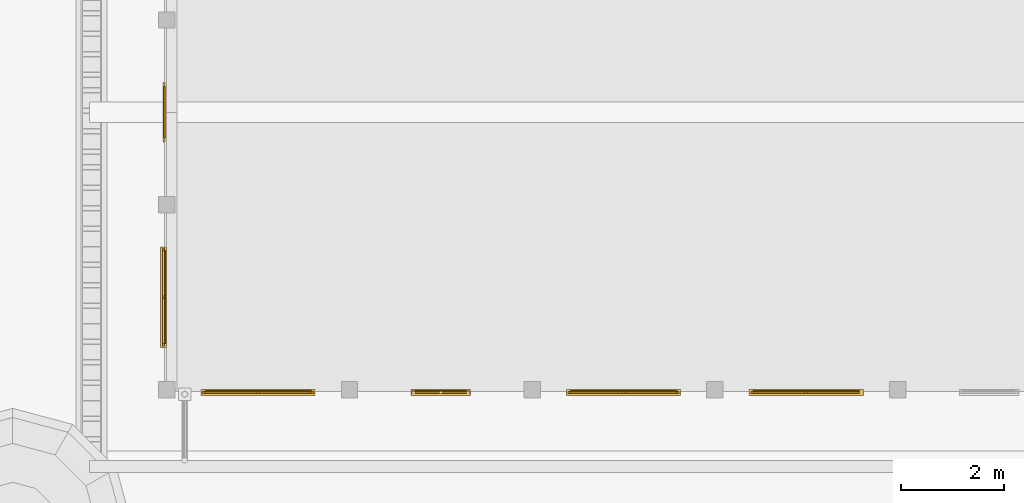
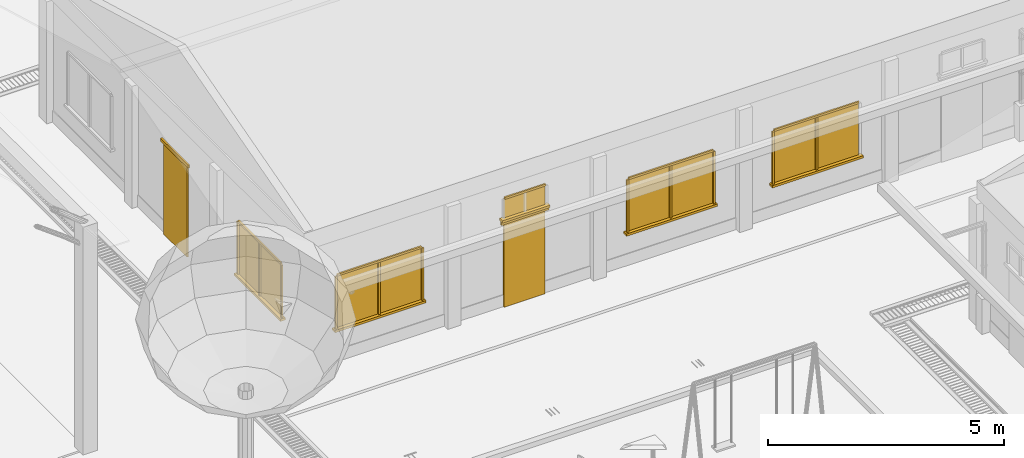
# One storey, part 55 of 166: 26 windows, 4 doors.
"""IFC2X3 building model written with IfcOpenShell, lengths in metres."""

from ifc_helpers import new_model, si_unit, origin, origin_with_axes, place, context, subcontext, project, spatial, faceted_brep, element, save


model = new_model("IFC2X3")

# Units and contexts
model_context = context("Model", 3, precision=1e-05, world=origin_with_axes())
body_context = subcontext(model_context, "Body", "Model", "MODEL_VIEW")
ifc_project = project(units=[si_unit("LENGTHUNIT", "METRE"), si_unit("AREAUNIT", "SQUARE_METRE"), si_unit("VOLUMEUNIT", "CUBIC_METRE"), si_unit("PLANEANGLEUNIT", "RADIAN")], contexts=[model_context])

# Site, building, storey
site_placement = place(None, origin_with_axes())
site = spatial("IfcSite", under=ifc_project, at=site_placement, Name="Predio Los Mangos - Morales, San Martín", CompositionType="ELEMENT")
building_placement = place(site_placement, origin())
building = spatial("IfcBuilding", under=site, at=building_placement, Name="Hogar de Refugio Temporal", CompositionType="ELEMENT")
storey_placement = place(building_placement, origin())
storey = spatial("IfcBuildingStorey", under=building, at=storey_placement, Name="NIVEL 1 (NPT +0.00)", CompositionType="ELEMENT", Elevation=0.0)

# Windows
window_1_placement = place(storey_placement, origin())
element("IfcWindow", 1, at=window_1_placement, inside=storey, Name="E-06_v0_vid", ObjectType="Ventana", context=body_context, shape_type="Brep", body=[
    faceted_brep([(32.7476, 92.66, 1.05), (32.7476, 92.68, 1.05), (34.8124, 92.68, 1.05), (34.8124, 92.66, 1.05), (32.7476, 92.66, 2.4), (34.8124, 92.66, 2.4), (34.8124, 92.68, 2.4), (32.7476, 92.68, 2.4)], [[[0, 1, 2, 3]], [[4, 5, 6, 7]], [[0, 3, 5, 4]], [[3, 2, 6, 5]], [[2, 1, 7, 6]], [[1, 0, 4, 7]]]),
])
window_2_placement = place(storey_placement, origin())
element("IfcWindow", 2, at=window_2_placement, inside=storey, Name="E-06_v0_m", ObjectType="Ventana", context=body_context, shape_type="Brep", body=[
    faceted_brep([(32.6976, 92.62, 1.05), (32.6976, 92.66, 1.05), (32.7476, 92.66, 1.05), (32.7476, 92.62, 1.05), (32.6976, 92.62, 2.4), (32.7476, 92.62, 2.4), (32.7476, 92.66, 2.4), (32.6976, 92.66, 2.4)], [[[0, 1, 2, 3]], [[4, 5, 6, 7]], [[0, 3, 5, 4]], [[3, 2, 6, 5]], [[2, 1, 7, 6]], [[1, 0, 4, 7]]]),
])
window_3_placement = place(storey_placement, origin())
element("IfcWindow", 3, at=window_3_placement, inside=storey, Name="E-06_v0_m", ObjectType="Ventana", context=body_context, shape_type="Brep", body=[
    faceted_brep([(34.8124, 92.62, 1.05), (34.8124, 92.66, 1.05), (34.8624, 92.66, 1.05), (34.8624, 92.62, 1.05), (34.8124, 92.62, 2.4), (34.8624, 92.62, 2.4), (34.8624, 92.66, 2.4), (34.8124, 92.66, 2.4)], [[[0, 1, 2, 3]], [[4, 5, 6, 7]], [[0, 3, 5, 4]], [[3, 2, 6, 5]], [[2, 1, 7, 6]], [[1, 0, 4, 7]]]),
])
window_4_placement = place(storey_placement, origin())
element("IfcWindow", 4, at=window_4_placement, inside=storey, Name="E-06_v0_m", ObjectType="Ventana", context=body_context, shape_type="Brep", body=[
    faceted_brep([(32.7476, 92.62, 2.4), (32.7476, 92.66, 2.4), (34.8124, 92.66, 2.4), (34.8124, 92.62, 2.4), (32.7476, 92.62, 2.45), (34.8124, 92.62, 2.45), (34.8124, 92.66, 2.45), (32.7476, 92.66, 2.45)], [[[0, 1, 2, 3]], [[4, 5, 6, 7]], [[0, 3, 5, 4]], [[3, 2, 6, 5]], [[2, 1, 7, 6]], [[1, 0, 4, 7]]]),
])
window_5_placement = place(storey_placement, origin())
element("IfcWindow", 5, at=window_5_placement, inside=storey, Name="E-06_v0_m", ObjectType="Ventana", context=body_context, shape_type="Brep", body=[
    faceted_brep([(33.755, 92.62, 1.05), (33.755, 92.66, 1.05), (33.805, 92.66, 1.05), (33.805, 92.62, 1.05), (33.755, 92.62, 2.4), (33.805, 92.62, 2.4), (33.805, 92.66, 2.4), (33.755, 92.66, 2.4)], [[[0, 1, 2, 3]], [[4, 5, 6, 7]], [[0, 3, 5, 4]], [[3, 2, 6, 5]], [[2, 1, 7, 6]], [[1, 0, 4, 7]]]),
])
window_6_placement = place(storey_placement, origin())
element("IfcWindow", 6, at=window_6_placement, inside=storey, Name="E-06_v0_alf", ObjectType="Ventana", context=body_context, shape_type="Brep", body=[
    faceted_brep([(32.6676, 92.7, 0.99), (32.6676, 92.58, 0.99), (34.8924, 92.58, 0.99), (34.8924, 92.7, 0.99), (32.6676, 92.7, 1.05), (34.8924, 92.7, 1.05), (34.8924, 92.58, 1.05), (32.6676, 92.58, 1.05)], [[[0, 1, 2, 3]], [[4, 5, 6, 7]], [[0, 3, 5, 4]], [[3, 2, 6, 5]], [[2, 1, 7, 6]], [[1, 0, 4, 7]]]),
])

# Doors
door_1_placement = place(storey_placement, origin())
element("IfcDoor", 7, at=door_1_placement, inside=storey, Name="E-06_p1", ObjectType="Puerta", context=body_context, shape_type="Brep", body=[
    faceted_brep([(36.84, 92.65, 0.15), (36.84, 92.69, 0.15), (37.84, 92.69, 0.15), (37.84, 92.65, 0.15), (36.84, 92.65, 2.3), (37.84, 92.65, 2.3), (37.84, 92.69, 2.3), (36.84, 92.69, 2.3)], [[[0, 1, 2, 3]], [[4, 5, 6, 7]], [[0, 3, 5, 4]], [[3, 2, 6, 5]], [[2, 1, 7, 6]], [[1, 0, 4, 7]]]),
])
door_2_placement = place(storey_placement, origin())
element("IfcDoor", 8, at=door_2_placement, inside=storey, Name="E-06_p1_marco", ObjectType="Puerta", context=body_context, shape_type="Brep", body=[
    faceted_brep([(36.76, 92.63, 2.3), (36.76, 92.67, 2.3), (37.92, 92.67, 2.3), (37.92, 92.63, 2.3), (36.76, 92.63, 2.38), (37.92, 92.63, 2.38), (37.92, 92.67, 2.38), (36.76, 92.67, 2.38)], [[[0, 1, 2, 3]], [[4, 5, 6, 7]], [[0, 3, 5, 4]], [[3, 2, 6, 5]], [[2, 1, 7, 6]], [[1, 0, 4, 7]]]),
])

# Windows
window_7_placement = place(storey_placement, origin())
element("IfcWindow", 9, at=window_7_placement, inside=storey, Name="E-06_vt1_vid", ObjectType="Ventana", context=body_context, shape_type="Brep", body=[
    faceted_brep([(36.84, 92.66, 2.45), (36.84, 92.68, 2.45), (37.84, 92.68, 2.45), (37.84, 92.66, 2.45), (36.84, 92.66, 2.95), (37.84, 92.66, 2.95), (37.84, 92.68, 2.95), (36.84, 92.68, 2.95)], [[[0, 1, 2, 3]], [[4, 5, 6, 7]], [[0, 3, 5, 4]], [[3, 2, 6, 5]], [[2, 1, 7, 6]], [[1, 0, 4, 7]]]),
])
window_8_placement = place(storey_placement, origin())
element("IfcWindow", 10, at=window_8_placement, inside=storey, Name="E-06_vt1_m", ObjectType="Ventana", context=body_context, shape_type="Brep", body=[
    faceted_brep([(36.84, 92.62, 2.95), (36.84, 92.66, 2.95), (37.84, 92.66, 2.95), (37.84, 92.62, 2.95), (36.84, 92.62, 3.0), (37.84, 92.62, 3.0), (37.84, 92.66, 3.0), (36.84, 92.66, 3.0)], [[[0, 1, 2, 3]], [[4, 5, 6, 7]], [[0, 3, 5, 4]], [[3, 2, 6, 5]], [[2, 1, 7, 6]], [[1, 0, 4, 7]]]),
])
window_9_placement = place(storey_placement, origin())
element("IfcWindow", 11, at=window_9_placement, inside=storey, Name="E-06_vt1_alf", ObjectType="Ventana", context=body_context, shape_type="Brep", body=[
    faceted_brep([(36.76, 92.7, 2.39), (36.76, 92.58, 2.39), (37.92, 92.58, 2.39), (37.92, 92.7, 2.39), (36.76, 92.7, 2.45), (37.92, 92.7, 2.45), (37.92, 92.58, 2.45), (36.76, 92.58, 2.45)], [[[0, 1, 2, 3]], [[4, 5, 6, 7]], [[0, 3, 5, 4]], [[3, 2, 6, 5]], [[2, 1, 7, 6]], [[1, 0, 4, 7]]]),
])
window_10_placement = place(storey_placement, origin())
element("IfcWindow", 12, at=window_10_placement, inside=storey, Name="E-06_v2_vid", ObjectType="Ventana", context=body_context, shape_type="Brep", body=[
    faceted_brep([(39.8676, 92.66, 1.05), (39.8676, 92.68, 1.05), (41.9324, 92.68, 1.05), (41.9324, 92.66, 1.05), (39.8676, 92.66, 2.4), (41.9324, 92.66, 2.4), (41.9324, 92.68, 2.4), (39.8676, 92.68, 2.4)], [[[0, 1, 2, 3]], [[4, 5, 6, 7]], [[0, 3, 5, 4]], [[3, 2, 6, 5]], [[2, 1, 7, 6]], [[1, 0, 4, 7]]]),
])
window_11_placement = place(storey_placement, origin())
element("IfcWindow", 13, at=window_11_placement, inside=storey, Name="E-06_v2_m", ObjectType="Ventana", context=body_context, shape_type="Brep", body=[
    faceted_brep([(39.8176, 92.62, 1.05), (39.8176, 92.66, 1.05), (39.8676, 92.66, 1.05), (39.8676, 92.62, 1.05), (39.8176, 92.62, 2.4), (39.8676, 92.62, 2.4), (39.8676, 92.66, 2.4), (39.8176, 92.66, 2.4)], [[[0, 1, 2, 3]], [[4, 5, 6, 7]], [[0, 3, 5, 4]], [[3, 2, 6, 5]], [[2, 1, 7, 6]], [[1, 0, 4, 7]]]),
])
window_12_placement = place(storey_placement, origin())
element("IfcWindow", 14, at=window_12_placement, inside=storey, Name="E-06_v2_m", ObjectType="Ventana", context=body_context, shape_type="Brep", body=[
    faceted_brep([(41.9324, 92.62, 1.05), (41.9324, 92.66, 1.05), (41.9824, 92.66, 1.05), (41.9824, 92.62, 1.05), (41.9324, 92.62, 2.4), (41.9824, 92.62, 2.4), (41.9824, 92.66, 2.4), (41.9324, 92.66, 2.4)], [[[0, 1, 2, 3]], [[4, 5, 6, 7]], [[0, 3, 5, 4]], [[3, 2, 6, 5]], [[2, 1, 7, 6]], [[1, 0, 4, 7]]]),
])
window_13_placement = place(storey_placement, origin())
element("IfcWindow", 15, at=window_13_placement, inside=storey, Name="E-06_v2_m", ObjectType="Ventana", context=body_context, shape_type="Brep", body=[
    faceted_brep([(39.8676, 92.62, 2.4), (39.8676, 92.66, 2.4), (41.9324, 92.66, 2.4), (41.9324, 92.62, 2.4), (39.8676, 92.62, 2.45), (41.9324, 92.62, 2.45), (41.9324, 92.66, 2.45), (39.8676, 92.66, 2.45)], [[[0, 1, 2, 3]], [[4, 5, 6, 7]], [[0, 3, 5, 4]], [[3, 2, 6, 5]], [[2, 1, 7, 6]], [[1, 0, 4, 7]]]),
])
window_14_placement = place(storey_placement, origin())
element("IfcWindow", 16, at=window_14_placement, inside=storey, Name="E-06_v2_m", ObjectType="Ventana", context=body_context, shape_type="Brep", body=[
    faceted_brep([(40.875, 92.62, 1.05), (40.875, 92.66, 1.05), (40.925, 92.66, 1.05), (40.925, 92.62, 1.05), (40.875, 92.62, 2.4), (40.925, 92.62, 2.4), (40.925, 92.66, 2.4), (40.875, 92.66, 2.4)], [[[0, 1, 2, 3]], [[4, 5, 6, 7]], [[0, 3, 5, 4]], [[3, 2, 6, 5]], [[2, 1, 7, 6]], [[1, 0, 4, 7]]]),
])
window_15_placement = place(storey_placement, origin())
element("IfcWindow", 17, at=window_15_placement, inside=storey, Name="E-06_v2_alf", ObjectType="Ventana", context=body_context, shape_type="Brep", body=[
    faceted_brep([(39.7876, 92.7, 0.99), (39.7876, 92.58, 0.99), (42.0124, 92.58, 0.99), (42.0124, 92.7, 0.99), (39.7876, 92.7, 1.05), (42.0124, 92.7, 1.05), (42.0124, 92.58, 1.05), (39.7876, 92.58, 1.05)], [[[0, 1, 2, 3]], [[4, 5, 6, 7]], [[0, 3, 5, 4]], [[3, 2, 6, 5]], [[2, 1, 7, 6]], [[1, 0, 4, 7]]]),
])
window_16_placement = place(storey_placement, origin())
element("IfcWindow", 18, at=window_16_placement, inside=storey, Name="E-06_v3_vid", ObjectType="Ventana", context=body_context, shape_type="Brep", body=[
    faceted_brep([(43.4276, 92.66, 1.05), (43.4276, 92.68, 1.05), (45.4924, 92.68, 1.05), (45.4924, 92.66, 1.05), (43.4276, 92.66, 2.4), (45.4924, 92.66, 2.4), (45.4924, 92.68, 2.4), (43.4276, 92.68, 2.4)], [[[0, 1, 2, 3]], [[4, 5, 6, 7]], [[0, 3, 5, 4]], [[3, 2, 6, 5]], [[2, 1, 7, 6]], [[1, 0, 4, 7]]]),
])
window_17_placement = place(storey_placement, origin())
element("IfcWindow", 19, at=window_17_placement, inside=storey, Name="E-06_v3_m", ObjectType="Ventana", context=body_context, shape_type="Brep", body=[
    faceted_brep([(43.3776, 92.62, 1.05), (43.3776, 92.66, 1.05), (43.4276, 92.66, 1.05), (43.4276, 92.62, 1.05), (43.3776, 92.62, 2.4), (43.4276, 92.62, 2.4), (43.4276, 92.66, 2.4), (43.3776, 92.66, 2.4)], [[[0, 1, 2, 3]], [[4, 5, 6, 7]], [[0, 3, 5, 4]], [[3, 2, 6, 5]], [[2, 1, 7, 6]], [[1, 0, 4, 7]]]),
])
window_18_placement = place(storey_placement, origin())
element("IfcWindow", 20, at=window_18_placement, inside=storey, Name="E-06_v3_m", ObjectType="Ventana", context=body_context, shape_type="Brep", body=[
    faceted_brep([(43.4276, 92.62, 2.4), (43.4276, 92.66, 2.4), (45.4924, 92.66, 2.4), (45.4924, 92.62, 2.4), (43.4276, 92.62, 2.45), (45.4924, 92.62, 2.45), (45.4924, 92.66, 2.45), (43.4276, 92.66, 2.45)], [[[0, 1, 2, 3]], [[4, 5, 6, 7]], [[0, 3, 5, 4]], [[3, 2, 6, 5]], [[2, 1, 7, 6]], [[1, 0, 4, 7]]]),
])
window_19_placement = place(storey_placement, origin())
element("IfcWindow", 21, at=window_19_placement, inside=storey, Name="E-06_v3_m", ObjectType="Ventana", context=body_context, shape_type="Brep", body=[
    faceted_brep([(44.435, 92.62, 1.05), (44.435, 92.66, 1.05), (44.485, 92.66, 1.05), (44.485, 92.62, 1.05), (44.435, 92.62, 2.4), (44.485, 92.62, 2.4), (44.485, 92.66, 2.4), (44.435, 92.66, 2.4)], [[[0, 1, 2, 3]], [[4, 5, 6, 7]], [[0, 3, 5, 4]], [[3, 2, 6, 5]], [[2, 1, 7, 6]], [[1, 0, 4, 7]]]),
])
window_20_placement = place(storey_placement, origin())
element("IfcWindow", 22, at=window_20_placement, inside=storey, Name="E-06_v3_alf", ObjectType="Ventana", context=body_context, shape_type="Brep", body=[
    faceted_brep([(43.3476, 92.7, 0.99), (43.3476, 92.58, 0.99), (45.5724, 92.58, 0.99), (45.5724, 92.7, 0.99), (43.3476, 92.7, 1.05), (45.5724, 92.7, 1.05), (45.5724, 92.58, 1.05), (43.3476, 92.58, 1.05)], [[[0, 1, 2, 3]], [[4, 5, 6, 7]], [[0, 3, 5, 4]], [[3, 2, 6, 5]], [[2, 1, 7, 6]], [[1, 0, 4, 7]]]),
])
window_21_placement = place(storey_placement, origin())
element("IfcWindow", 23, at=window_21_placement, inside=storey, Name="E-06_vg0_vid", ObjectType="Ventana", context=body_context, shape_type="Brep", body=[
    faceted_brep([(31.96, 93.6, 1.05), (31.96, 95.4, 1.05), (31.98, 95.4, 1.05), (31.98, 93.6, 1.05), (31.96, 93.6, 2.4), (31.98, 93.6, 2.4), (31.98, 95.4, 2.4), (31.96, 95.4, 2.4)], [[[0, 1, 2, 3]], [[4, 5, 6, 7]], [[0, 3, 5, 4]], [[3, 2, 6, 5]], [[2, 1, 7, 6]], [[1, 0, 4, 7]]]),
])
window_22_placement = place(storey_placement, origin())
element("IfcWindow", 24, at=window_22_placement, inside=storey, Name="E-06_vg0_m", ObjectType="Ventana", context=body_context, shape_type="Brep", body=[
    faceted_brep([(31.92, 93.55, 1.05), (31.92, 93.6, 1.05), (31.96, 93.6, 1.05), (31.96, 93.55, 1.05), (31.92, 93.55, 2.4), (31.96, 93.55, 2.4), (31.96, 93.6, 2.4), (31.92, 93.6, 2.4)], [[[0, 1, 2, 3]], [[4, 5, 6, 7]], [[0, 3, 5, 4]], [[3, 2, 6, 5]], [[2, 1, 7, 6]], [[1, 0, 4, 7]]]),
])
window_23_placement = place(storey_placement, origin())
element("IfcWindow", 25, at=window_23_placement, inside=storey, Name="E-06_vg0_m", ObjectType="Ventana", context=body_context, shape_type="Brep", body=[
    faceted_brep([(31.92, 95.4, 1.05), (31.92, 95.45, 1.05), (31.96, 95.45, 1.05), (31.96, 95.4, 1.05), (31.92, 95.4, 2.4), (31.96, 95.4, 2.4), (31.96, 95.45, 2.4), (31.92, 95.45, 2.4)], [[[0, 1, 2, 3]], [[4, 5, 6, 7]], [[0, 3, 5, 4]], [[3, 2, 6, 5]], [[2, 1, 7, 6]], [[1, 0, 4, 7]]]),
])
window_24_placement = place(storey_placement, origin())
element("IfcWindow", 26, at=window_24_placement, inside=storey, Name="E-06_vg0_m", ObjectType="Ventana", context=body_context, shape_type="Brep", body=[
    faceted_brep([(31.92, 93.6, 2.4), (31.92, 95.4, 2.4), (31.96, 95.4, 2.4), (31.96, 93.6, 2.4), (31.92, 93.6, 2.45), (31.96, 93.6, 2.45), (31.96, 95.4, 2.45), (31.92, 95.4, 2.45)], [[[0, 1, 2, 3]], [[4, 5, 6, 7]], [[0, 3, 5, 4]], [[3, 2, 6, 5]], [[2, 1, 7, 6]], [[1, 0, 4, 7]]]),
])
window_25_placement = place(storey_placement, origin())
element("IfcWindow", 27, at=window_25_placement, inside=storey, Name="E-06_vg0_m", ObjectType="Ventana", context=body_context, shape_type="Brep", body=[
    faceted_brep([(31.92, 94.475, 1.05), (31.92, 94.525, 1.05), (31.96, 94.525, 1.05), (31.96, 94.475, 1.05), (31.92, 94.475, 2.4), (31.96, 94.475, 2.4), (31.96, 94.525, 2.4), (31.92, 94.525, 2.4)], [[[0, 1, 2, 3]], [[4, 5, 6, 7]], [[0, 3, 5, 4]], [[3, 2, 6, 5]], [[2, 1, 7, 6]], [[1, 0, 4, 7]]]),
])
window_26_placement = place(storey_placement, origin())
element("IfcWindow", 28, at=window_26_placement, inside=storey, Name="E-06_vg0_alf", ObjectType="Ventana", context=body_context, shape_type="Brep", body=[
    faceted_brep([(32.0, 93.52, 0.99), (32.0, 95.48, 0.99), (31.88, 95.48, 0.99), (31.88, 93.52, 0.99), (32.0, 93.52, 1.05), (31.88, 93.52, 1.05), (31.88, 95.48, 1.05), (32.0, 95.48, 1.05)], [[[0, 1, 2, 3]], [[4, 5, 6, 7]], [[0, 3, 5, 4]], [[3, 2, 6, 5]], [[2, 1, 7, 6]], [[1, 0, 4, 7]]]),
])

# Doors
door_3_placement = place(storey_placement, origin())
element("IfcDoor", 29, at=door_3_placement, inside=storey, Name="E-06_pp", ObjectType="Puerta", context=body_context, shape_type="Brep", body=[
    faceted_brep([(31.95, 97.6, 0.15), (31.95, 98.6, 0.15), (31.99, 98.6, 0.15), (31.99, 97.6, 0.15), (31.95, 97.6, 2.5), (31.99, 97.6, 2.5), (31.99, 98.6, 2.5), (31.95, 98.6, 2.5)], [[[0, 1, 2, 3]], [[4, 5, 6, 7]], [[0, 3, 5, 4]], [[3, 2, 6, 5]], [[2, 1, 7, 6]], [[1, 0, 4, 7]]]),
])
door_4_placement = place(storey_placement, origin())
element("IfcDoor", 30, at=door_4_placement, inside=storey, Name="E-06_pp_marco", ObjectType="Puerta", context=body_context, shape_type="Brep", body=[
    faceted_brep([(31.93, 97.52, 2.5), (31.93, 98.68, 2.5), (31.97, 98.68, 2.5), (31.97, 97.52, 2.5), (31.93, 97.52, 2.58), (31.97, 97.52, 2.58), (31.97, 98.68, 2.58), (31.93, 98.68, 2.58)], [[[0, 1, 2, 3]], [[4, 5, 6, 7]], [[0, 3, 5, 4]], [[3, 2, 6, 5]], [[2, 1, 7, 6]], [[1, 0, 4, 7]]]),
])

save(model, "model.ifc")
